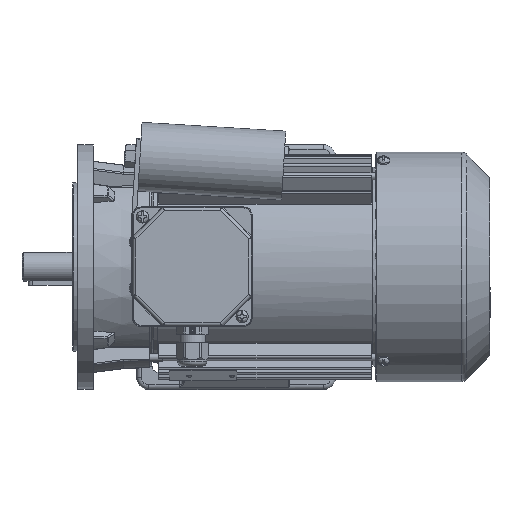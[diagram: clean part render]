
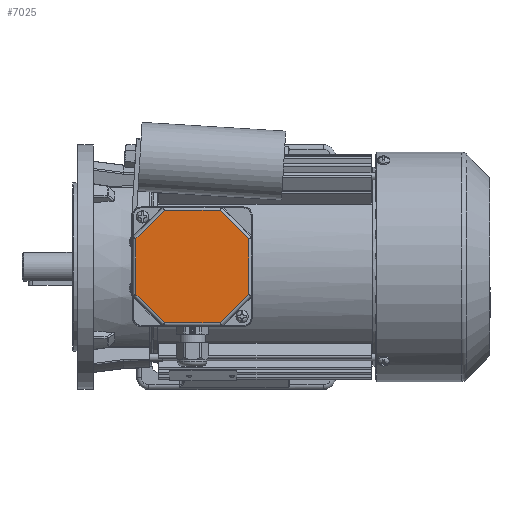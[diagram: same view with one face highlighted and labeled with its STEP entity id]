
A CAD part, top view. The second image highlights one B-rep face of the part: STEP entity #7025.
In plain terms, the highlighted planar face has unit normal (0, 0, 1).
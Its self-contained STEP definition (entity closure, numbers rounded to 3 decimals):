
#7025 = ADVANCED_FACE( '', ( #14818 ), #14819, .T. );
#14818 = FACE_OUTER_BOUND( '', #49359, .T. );
#14819 = PLANE( '', #49360 );
#49359 = EDGE_LOOP( '', ( #81677, #81678, #81679, #81680, #81681, #81682, #81683, #81684 ) );
#49360 = AXIS2_PLACEMENT_3D( '', #81685, #81686, #81687 );
#81677 = ORIENTED_EDGE( '', *, *, #96740, .T. );
#81678 = ORIENTED_EDGE( '', *, *, #95949, .T. );
#81679 = ORIENTED_EDGE( '', *, *, #99538, .T. );
#81680 = ORIENTED_EDGE( '', *, *, #97018, .T. );
#81681 = ORIENTED_EDGE( '', *, *, #93833, .T. );
#81682 = ORIENTED_EDGE( '', *, *, #96381, .T. );
#81683 = ORIENTED_EDGE( '', *, *, #99539, .T. );
#81684 = ORIENTED_EDGE( '', *, *, #99540, .T. );
#81685 = CARTESIAN_POINT( '', ( -39., 39., 12. ) );
#81686 = DIRECTION( '', ( 0., 0., 1. ) );
#81687 = DIRECTION( '', ( 1., 0., 0. ) );
#93833 = EDGE_CURVE( '', #106676, #106677, #106678, .F. );
#95949 = EDGE_CURVE( '', #105534, #110156, #110157, .T. );
#96381 = EDGE_CURVE( '', #106677, #110819, #110820, .T. );
#96740 = EDGE_CURVE( '', #111138, #105534, #111342, .F. );
#97018 = EDGE_CURVE( '', #107808, #106676, #111752, .T. );
#99538 = EDGE_CURVE( '', #110156, #107808, #115232, .F. );
#99539 = EDGE_CURVE( '', #110819, #104247, #115233, .F. );
#99540 = EDGE_CURVE( '', #104247, #111138, #115234, .T. );
#104247 = VERTEX_POINT( '', #120349 );
#105534 = VERTEX_POINT( '', #124524 );
#106676 = VERTEX_POINT( '', #128041 );
#106677 = VERTEX_POINT( '', #128042 );
#106678 = LINE( '', #128043, #128044 );
#107808 = VERTEX_POINT( '', #131496 );
#110156 = VERTEX_POINT( '', #139968 );
#110157 = LINE( '', #139969, #139970 );
#110819 = VERTEX_POINT( '', #141977 );
#110820 = LINE( '', #141978, #141979 );
#111138 = VERTEX_POINT( '', #143017 );
#111342 = LINE( '', #143815, #143816 );
#111752 = LINE( '', #145482, #145483 );
#115232 = LINE( '', #156570, #156571 );
#115233 = LINE( '', #156572, #156573 );
#115234 = LINE( '', #156574, #156575 );
#120349 = CARTESIAN_POINT( '', ( 18.255, -36.825, 12. ) );
#124524 = CARTESIAN_POINT( '', ( 36.825, 18.255, 12. ) );
#128041 = CARTESIAN_POINT( '', ( -36.825, 18.255, 12. ) );
#128042 = CARTESIAN_POINT( '', ( -36.825, -18.255, 12. ) );
#128043 = CARTESIAN_POINT( '', ( -36.825, -19.069, 12. ) );
#128044 = VECTOR( '', #167006, 1000. );
#131496 = CARTESIAN_POINT( '', ( -18.255, 36.825, 12. ) );
#139968 = CARTESIAN_POINT( '', ( 18.255, 36.825, 12. ) );
#139969 = CARTESIAN_POINT( '', ( 17.679, 37.401, 12. ) );
#139970 = VECTOR( '', #169411, 1000. );
#141977 = CARTESIAN_POINT( '', ( -18.255, -36.825, 12. ) );
#141978 = CARTESIAN_POINT( '', ( -17.679, -37.401, 12. ) );
#141979 = VECTOR( '', #169914, 1000. );
#143017 = CARTESIAN_POINT( '', ( 36.825, -18.255, 12. ) );
#143815 = CARTESIAN_POINT( '', ( 36.825, 19.069, 12. ) );
#143816 = VECTOR( '', #170293, 1000. );
#145482 = CARTESIAN_POINT( '', ( -37.401, 17.679, 12. ) );
#145483 = VECTOR( '', #170593, 1000. );
#156570 = CARTESIAN_POINT( '', ( -19.069, 36.825, 12. ) );
#156571 = VECTOR( '', #173461, 1000. );
#156572 = CARTESIAN_POINT( '', ( 19.069, -36.825, 12. ) );
#156573 = VECTOR( '', #173462, 1000. );
#156574 = CARTESIAN_POINT( '', ( 37.401, -17.679, 12. ) );
#156575 = VECTOR( '', #173463, 1000. );
#167006 = DIRECTION( '', ( 0., 1., 0. ) );
#169411 = DIRECTION( '', ( -0.707, 0.707, 0. ) );
#169914 = DIRECTION( '', ( 0.707, -0.707, 0. ) );
#170293 = DIRECTION( '', ( 0., -1., 0. ) );
#170593 = DIRECTION( '', ( -0.707, -0.707, 0. ) );
#173461 = DIRECTION( '', ( 1., 0., 0. ) );
#173462 = DIRECTION( '', ( -1., 0., 0. ) );
#173463 = DIRECTION( '', ( 0.707, 0.707, 0. ) );
